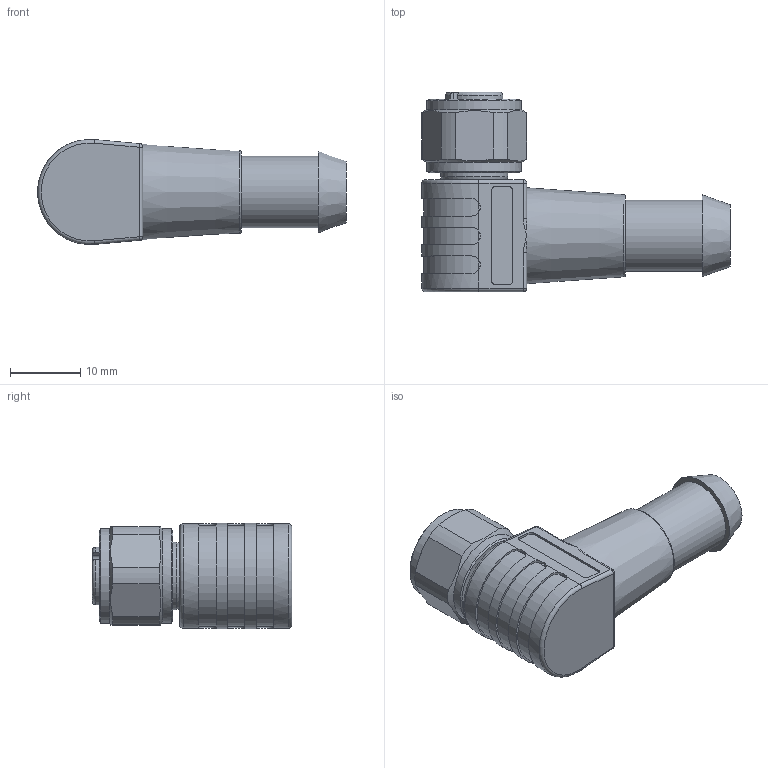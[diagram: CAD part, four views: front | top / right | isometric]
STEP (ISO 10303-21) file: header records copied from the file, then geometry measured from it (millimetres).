
FILE_DESCRIPTION (( 'STEP AP203' ), '1' );
FILE_NAME ('WD-WKCV.step', '2019-12-19T13:50:45', ( '' ), ( '' ), 'SwSTEP 2.0', 'SolidWorks 2017', '' );
FILE_SCHEMA (( 'CONFIG_CONTROL_DESIGN' ));
Length unit declared in the file: millimetre
Products named in the file (1): WD-WKCV
Bounding box: 44.1 x 28.5 x 15 mm (x, y, z)
Volume: 7457.1 mm3; surface area: 3556.3 mm2
Topology: 1 solids, 1 shells, 112 faces, 283 edges, 175 vertices
Faces by surface type: plane 46, cylinder 46, cone 7, torus 5, bspline 4, sphere 4
Full cylindrical faces by diameter (mm): 9.6 x2, 10.2 x1, 11 x1, 12.3 x1, 13.5 x2
Entity records: 3639 total; most frequent: CARTESIAN_POINT 1127, ORIENTED_EDGE 500, DIRECTION 488, EDGE_CURVE 250, AXIS2_PLACEMENT_3D 195, VERTEX_POINT 166, EDGE_LOOP 138, FACE_OUTER_BOUND 121
